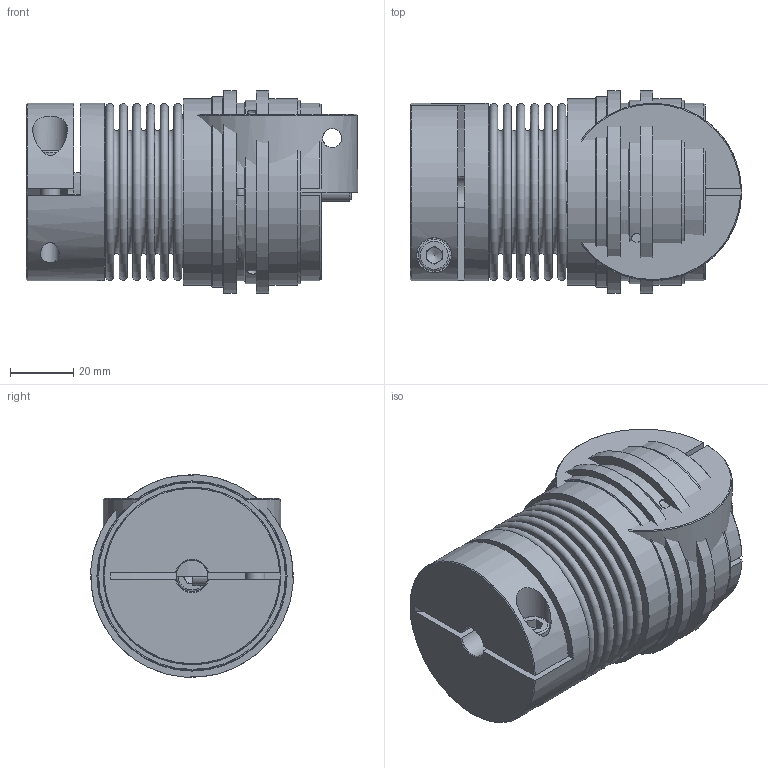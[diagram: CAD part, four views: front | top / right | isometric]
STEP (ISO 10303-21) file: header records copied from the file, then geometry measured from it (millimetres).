
FILE_DESCRIPTION( ( 'Unknown' ), '1' );
FILE_NAME( 'C:/Dokumente und Einstellungen/SKarpstein/Desktop/Korrigierte 3D Modelle/KBK-BKK-30-94.stp', 'Unknown', ( 'Unknown' ), ( 'Unknown' ), 'XStep 1.0', 'Unknown', ' ' );
FILE_SCHEMA( ( 'automotive_design' ) );
Length unit declared in the file: millimetre
Products named in the file (11): Assem1; Assem2; Zylinderschraube DIN 912_0_0_0; Stellring 30_0; Druckring 30_0; L-K-30 Grundkörper_0; Klemmnabe 30_0; Flansch BK30; BL30_Standard_0; KN30_Standard_2; Socket Head Cap Screw_DIN_DIN 912 M6 x 20 --- 20N_3
Bounding box: 104.55 x 64 x 64 mm (x, y, z)
Volume: 332370.1 mm3; surface area: 180071.1 mm2
Topology: 19 solids, 19 shells, 365 faces, 754 edges, 493 vertices
Faces by surface type: plane 184, cylinder 88, torus 56, cone 37
Full cylindrical faces by diameter (mm): 3.242 x6, 4.917 x2, 6 x7, 6.4 x4, 10 x9, 11 x4, 23.9 x2, 25 x4, 30 x2, 34 x2, 37 x2, 38 x6, 40 x2, 46.5 x4, 47.3 x4, 52 x2, 56 x2, 58 x2, 59 x2, 60 x2, 64 x2
Entity records: 5103 total; most frequent: CARTESIAN_POINT 1329, DIRECTION 751, ORIENTED_EDGE 536, AXIS2_PLACEMENT_3D 335, EDGE_LOOP 306, EDGE_CURVE 268, FACE_OUTER_BOUND 237, VERTEX_POINT 219
